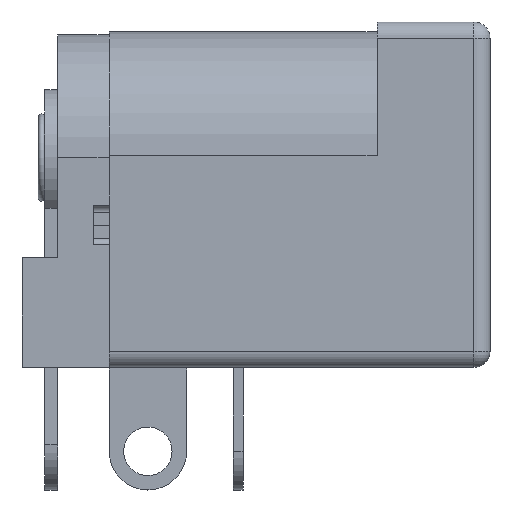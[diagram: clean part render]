
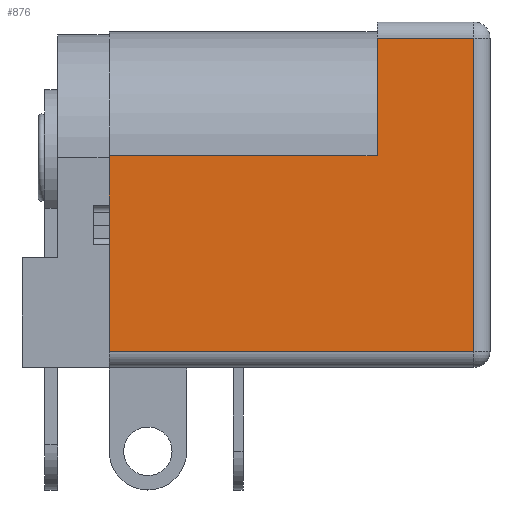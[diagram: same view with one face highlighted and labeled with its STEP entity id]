
A CAD part, left-side view. The second image highlights one B-rep face of the part: STEP entity #876.
In plain terms, the highlighted planar face has unit normal (-1, 0, 0).
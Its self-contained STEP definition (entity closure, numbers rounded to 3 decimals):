
#196 = VERTEX_POINT('',#197);
#197 = CARTESIAN_POINT('',(-4.5,8.3,-4.85));
#204 = EDGE_CURVE('',#205,#196,#207,.T.);
#205 = VERTEX_POINT('',#206);
#206 = CARTESIAN_POINT('',(-4.5,8.3,1.2));
#207 = LINE('',#208,#209);
#208 = CARTESIAN_POINT('',(-4.5,8.3,1.2));
#209 = VECTOR('',#210,1.);
#210 = DIRECTION('',(0.,0.,-1.));
#814 = EDGE_CURVE('',#815,#817,#819,.T.);
#815 = VERTEX_POINT('',#816);
#816 = CARTESIAN_POINT('',(-4.5,0.,1.2));
#817 = VERTEX_POINT('',#818);
#818 = CARTESIAN_POINT('',(-4.5,0.,4.85));
#819 = LINE('',#820,#821);
#820 = CARTESIAN_POINT('',(-4.5,0.,-5.35));
#821 = VECTOR('',#822,1.);
#822 = DIRECTION('',(0.,0.,1.));
#876 = ADVANCED_FACE('',(#877),#909,.T.);
#877 = FACE_BOUND('',#878,.T.);
#878 = EDGE_LOOP('',(#879,#880,#888,#896,#902,#903));
#879 = ORIENTED_EDGE('',*,*,#204,.T.);
#880 = ORIENTED_EDGE('',*,*,#881,.F.);
#881 = EDGE_CURVE('',#882,#196,#884,.T.);
#882 = VERTEX_POINT('',#883);
#883 = CARTESIAN_POINT('',(-4.5,-3.,-4.85));
#884 = LINE('',#885,#886);
#885 = CARTESIAN_POINT('',(-4.5,-3.5,-4.85));
#886 = VECTOR('',#887,1.);
#887 = DIRECTION('',(0.,1.,0.));
#888 = ORIENTED_EDGE('',*,*,#889,.T.);
#889 = EDGE_CURVE('',#882,#890,#892,.T.);
#890 = VERTEX_POINT('',#891);
#891 = CARTESIAN_POINT('',(-4.5,-3.,4.85));
#892 = LINE('',#893,#894);
#893 = CARTESIAN_POINT('',(-4.5,-3.,5.35));
#894 = VECTOR('',#895,1.);
#895 = DIRECTION('',(0.,0.,1.));
#896 = ORIENTED_EDGE('',*,*,#897,.T.);
#897 = EDGE_CURVE('',#890,#817,#898,.T.);
#898 = LINE('',#899,#900);
#899 = CARTESIAN_POINT('',(-4.5,-3.5,4.85));
#900 = VECTOR('',#901,1.);
#901 = DIRECTION('',(0.,1.,0.));
#902 = ORIENTED_EDGE('',*,*,#814,.F.);
#903 = ORIENTED_EDGE('',*,*,#904,.F.);
#904 = EDGE_CURVE('',#205,#815,#905,.T.);
#905 = LINE('',#906,#907);
#906 = CARTESIAN_POINT('',(-4.5,8.3,1.2));
#907 = VECTOR('',#908,1.);
#908 = DIRECTION('',(0.,-1.,0.));
#909 = PLANE('',#910);
#910 = AXIS2_PLACEMENT_3D('',#911,#912,#913);
#911 = CARTESIAN_POINT('',(-4.5,-3.5,-5.35));
#912 = DIRECTION('',(-1.,0.,0.));
#913 = DIRECTION('',(0.,0.,1.));
